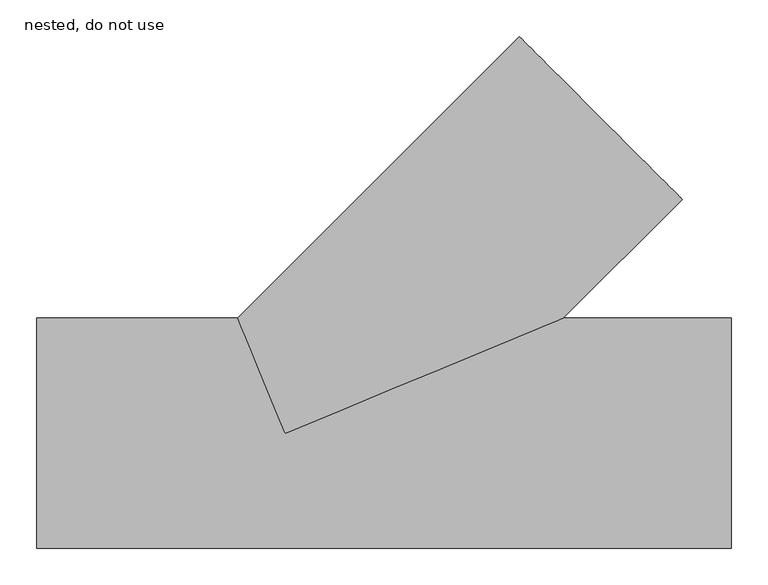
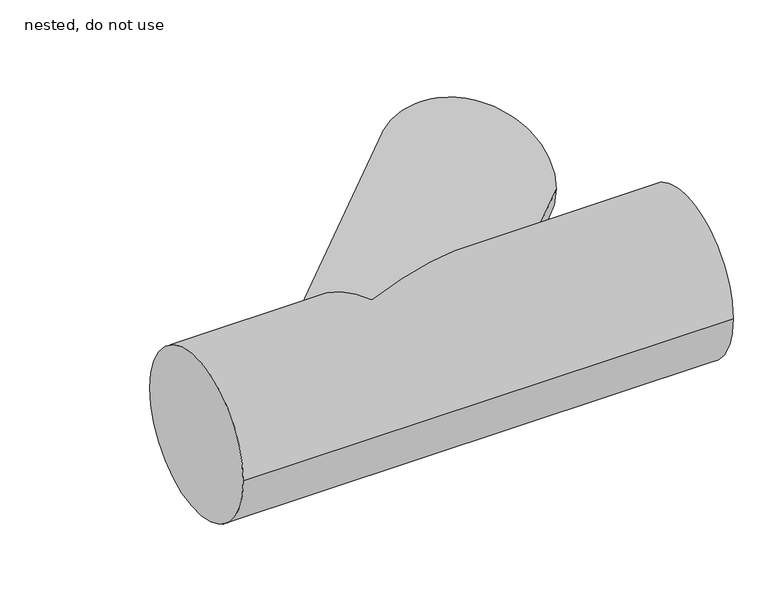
"""IFC4 building model written with IfcOpenShell, lengths in millimetres: pipe fitting geometry, NLRS_52_PIF_UN_HDPE equal branch -SH_Akatherm : nested, do not use."""

from ifc_helpers import new_model, si_unit, frame, origin, place, context, project, spatial, circle_curve, ellipse_curve, source, transform, mapped, element, save
from ifc_brep_helpers import plane_surface, cylinder_surface, advanced_brep


def nested_do_not_use_c7003eac(model_context):
    return source(origin(), model_context, "Body", "AdvancedBrep", [
        advanced_brep(
        [(542.7044546, 319.9658185, 0.0), (319.9658185, 542.7044546, 0.0), (-65.2386361, 157.5, 0.0), (0.0, 0.0, 157.5), (380.2386361, 157.5, 0.0), (0.0, 0.0, -157.5), (-340.0, -157.5, 0.0), (-340.0, 157.5, 0.0), (610.0, -157.5, 0.0), (610.0, 157.5, 0.0)],
        [
            (0, 1, circle_curve(frame((431.3351365, 431.3351365, 0.0), z_axis=(0.7071067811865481, 0.7071067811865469, 0.0), x_axis=(-0.7071067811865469, 0.7071067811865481, 0.0)), 157.5)),
            (1, 0, circle_curve(frame((431.3351365, 431.3351365, 0.0), z_axis=(0.7071067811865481, 0.7071067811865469, 0.0), x_axis=(-0.7071067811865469, 0.7071067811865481, 0.0)), 157.5)),
            (1, 2),
            (2, 3, ellipse_curve(frame((0.0, 0.0, 0.0), z_axis=(0.923879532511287, 0.3826834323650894, 0.0), x_axis=(0.38268343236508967, -0.9238795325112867, 0.0)), 170.4767715, 157.5)),
            (3, 4, ellipse_curve(frame((0.0, 0.0, 0.0), z_axis=(-0.3826834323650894, 0.923879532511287, 0.0), x_axis=(-0.923879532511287, -0.38268343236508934, 0.0)), 411.5673339, 157.5)),
            (4, 0),
            (4, 5, ellipse_curve(frame((0.0, 0.0, 0.0), z_axis=(-0.3826834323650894, 0.923879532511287, 0.0), x_axis=(-0.923879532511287, -0.38268343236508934, 0.0)), 411.5673339, 157.5)),
            (5, 2, ellipse_curve(frame((0.0, 0.0, 0.0), z_axis=(0.923879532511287, 0.3826834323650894, 0.0), x_axis=(0.38268343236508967, -0.9238795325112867, 0.0)), 170.4767715, 157.5)),
            (6, 7, circle_curve(frame((-340.0, 0.0, 0.0), z_axis=(-1.0, 0.0, 0.0), x_axis=(0.0, 1.0, 0.0)), 157.5)),
            (7, 6, circle_curve(frame((-340.0, 0.0, 0.0), z_axis=(-1.0, 0.0, 0.0), x_axis=(0.0, 1.0, 0.0)), 157.5)),
            (8, 9, circle_curve(frame((610.0, 0.0, 0.0), z_axis=(1.0, 0.0, 0.0), x_axis=(0.0, 1.0, 0.0)), 157.5)),
            (9, 8, circle_curve(frame((610.0, 0.0, 0.0), z_axis=(1.0, 0.0, 0.0), x_axis=(0.0, 1.0, 0.0)), 157.5)),
            (6, 8),
            (9, 4),
            (2, 7),
        ],
        [
            plane_surface(frame((431.3351365, 431.3351365, 0.0), z_axis=(0.7071067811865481, 0.7071067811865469, 0.0), x_axis=(0.0, 0.0, 1.0))),
            cylinder_surface(frame((0.0, 0.0, 0.0), z_axis=(-0.7071067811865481, -0.7071067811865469, 0.0), x_axis=(-0.7071067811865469, 0.7071067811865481, 0.0)), 157.5),
            plane_surface(frame((-340.0, 0.0, 0.0), z_axis=(-1.0, 0.0, 0.0), x_axis=(0.0, 0.0, 1.0))),
            plane_surface(frame((610.0, 0.0, 0.0), z_axis=(1.0, 0.0, 0.0), x_axis=(0.0, 0.0, 1.0))),
            cylinder_surface(frame((-340.0, 0.0, 0.0), z_axis=(-1.0, 0.0, 0.0), x_axis=(0.0, 1.0, 0.0)), 157.5),
        ],
        [
            (0, [[1, 2]]),
            (1, [[-2, 3, 4, 5, 6]]),
            (1, [[-1, -6, 7, 8, -3]]),
            (2, [[9, 10]]),
            (3, [[11, 12]]),
            (4, [[-9, 13, -12, 14, -5, -4, 15]]),
            (4, [[-10, -15, -8, -7, -14, -11, -13]]),
        ],
    ),
    ])


if __name__ == "__main__":
    model = new_model("IFC4")
    model_context = context("Model", 3, world=origin())
    ifc_project = project(units=[si_unit("LENGTHUNIT", "METRE", prefix="MILLI")], contexts=[model_context])
    site = spatial("IfcSite", under=ifc_project)
    building = spatial("IfcBuilding", under=site)
    placement = place(None, origin())
    nested_do_not_use_shape = nested_do_not_use_c7003eac(model_context)
    element("IfcPipeFitting", 1, ObjectType="NLRS_52_PIF_UN_HDPE equal branch -SH_Akatherm : nested, do not use", at=placement, inside=building, context=model_context, shape_type="MappedRepresentation", body=[
        mapped(nested_do_not_use_shape, transform((0.0, 0.0, 0.0), x_axis=(1.0, 0.0, 0.0), y_axis=(0.0, 1.0, 0.0), z_axis=(0.0, 0.0, 1.0))),
    ])
    save(model, "model.ifc")
